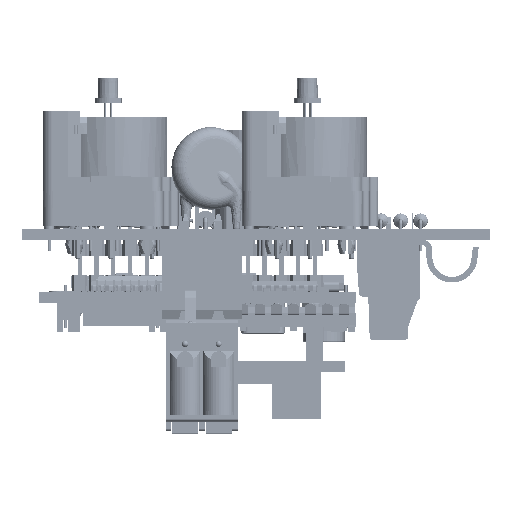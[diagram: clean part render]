
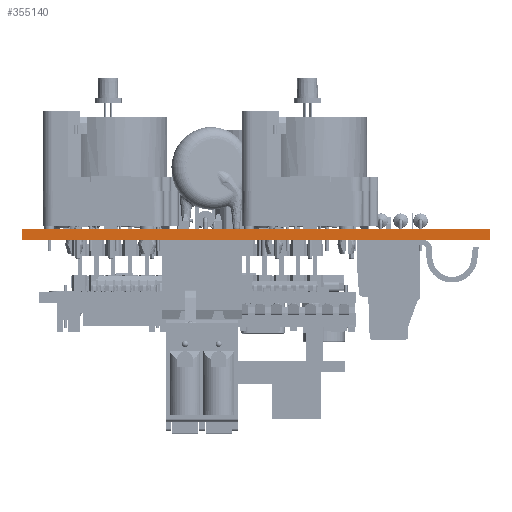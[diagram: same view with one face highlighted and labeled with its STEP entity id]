
A CAD part, left-side view. The second image highlights one B-rep face of the part: STEP entity #355140.
In plain terms, the highlighted planar face has unit normal (-1, 0, 0).
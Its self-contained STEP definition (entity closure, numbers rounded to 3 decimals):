
#12160=PLANE('',#378579);
#27266=FACE_OUTER_BOUND('',#47227,.T.);
#47227=EDGE_LOOP('',(#282147,#282148,#282149,#282150));
#64269=LINE('',#506889,#103835);
#64363=LINE('',#507700,#103929);
#78614=LINE('',#545730,#118180);
#78617=LINE('',#545735,#118183);
#103835=VECTOR('',#407080,10.);
#103929=VECTOR('',#407800,10.);
#118180=VECTOR('',#441249,10.);
#118183=VECTOR('',#441256,10.);
#152184=VERTEX_POINT('',#506887);
#152185=VERTEX_POINT('',#506888);
#152588=VERTEX_POINT('',#507698);
#152589=VERTEX_POINT('',#507699);
#187565=EDGE_CURVE('',#152184,#152185,#64269,.T.);
#187971=EDGE_CURVE('',#152588,#152589,#64363,.T.);
#205895=EDGE_CURVE('',#152185,#152588,#78614,.T.);
#205898=EDGE_CURVE('',#152184,#152589,#78617,.T.);
#282147=ORIENTED_EDGE('',*,*,#187565,.F.);
#282148=ORIENTED_EDGE('',*,*,#205898,.T.);
#282149=ORIENTED_EDGE('',*,*,#187971,.F.);
#282150=ORIENTED_EDGE('',*,*,#205895,.F.);
#355140=ADVANCED_FACE('',(#27266),#12160,.T.);
#378579=AXIS2_PLACEMENT_3D('',#545736,#441257,#441258);
#407080=DIRECTION('',(0.,1.,0.));
#407800=DIRECTION('',(0.,-1.,0.));
#441249=DIRECTION('',(0.,0.,1.));
#441256=DIRECTION('',(0.,0.,1.));
#441257=DIRECTION('center_axis',(-1.,0.,0.));
#441258=DIRECTION('ref_axis',(0.,-1.,0.));
#506887=CARTESIAN_POINT('',(-66.8,-37.5,0.));
#506888=CARTESIAN_POINT('',(-66.8,33.2,0.));
#506889=CARTESIAN_POINT('',(-66.8,-37.5,0.));
#507698=CARTESIAN_POINT('',(-66.8,33.2,1.57));
#507699=CARTESIAN_POINT('',(-66.8,-37.5,1.57));
#507700=CARTESIAN_POINT('',(-66.8,-37.5,1.57));
#545730=CARTESIAN_POINT('',(-66.8,33.2,0.));
#545735=CARTESIAN_POINT('',(-66.8,-37.5,0.));
#545736=CARTESIAN_POINT('Origin',(-66.8,33.2,0.));
